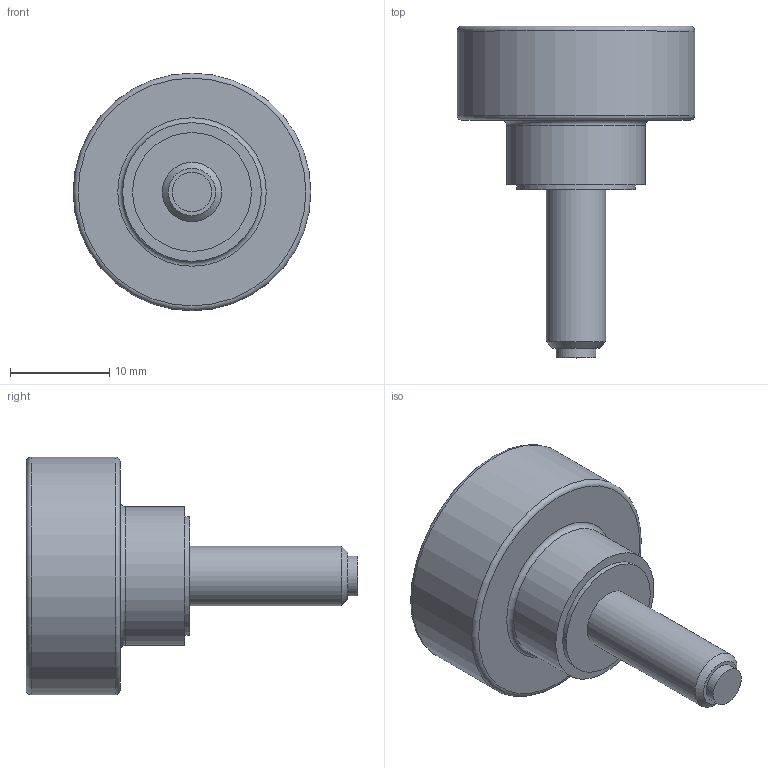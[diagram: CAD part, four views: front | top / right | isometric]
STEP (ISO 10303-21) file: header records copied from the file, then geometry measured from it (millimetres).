
FILE_DESCRIPTION( ( 'STEP AP203' ), '1' );
FILE_NAME( 'C:/Temp/Ganter_Step_05_03_2020/data/2_2/gn_421_10/Hollow knurled knob, with tip GN 421.10-M6-16-MS.stp', '2020-03-05T12:25:32', ( 'License CC BY-ND 4.0' ), ( 'CADENAS' ), ' ', 'PARTsolutions', ' ' );
FILE_SCHEMA( ( 'CONFIG_CONTROL_DESIGN' ) );
Length unit declared in the file: millimetre
Products named in the file (1): _Hollow knurled knob, with tip GN 421.10-M6-16-MS
Bounding box: 24 x 33.5 x 24 mm (x, y, z)
Volume: 3945.6 mm3; surface area: 2638.4 mm2
Topology: 1 solids, 1 shells, 19 faces, 30 edges, 19 vertices
Faces by surface type: plane 8, cylinder 7, torus 3, cone 1
Full cylindrical faces by diameter (mm): 4 x1, 6 x1, 10 x1, 12 x1, 14 x1, 20 x1, 24 x1
Entity records: 418 total; most frequent: DIRECTION 76, CARTESIAN_POINT 56, AXIS2_PLACEMENT_3D 38, EDGE_LOOP 36, ORIENTED_EDGE 36, FACE_OUTER_BOUND 29, ADVANCED_FACE 19, EDGE_CURVE 18
